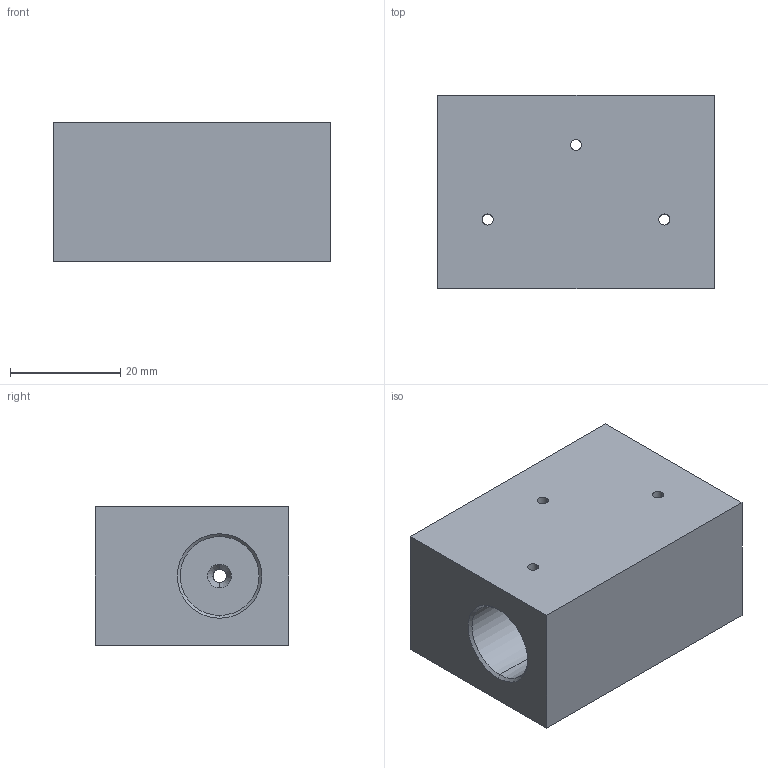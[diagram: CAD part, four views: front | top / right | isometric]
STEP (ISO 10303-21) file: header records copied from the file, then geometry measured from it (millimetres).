
FILE_DESCRIPTION (( 'STEP AP203' ), '1' );
FILE_NAME ('FT60TS04.STEP', '2026-06-26T01:33:34', ( 'USER' ), ( '' ), 'SwSTEP 2.0', 'SolidWorks 2023', '' );
FILE_SCHEMA (( 'CONFIG_CONTROL_DESIGN' ));
Length unit declared in the file: millimetre
Products named in the file (1): FT60TS04
Bounding box: 50 x 35 x 25 mm (x, y, z)
Volume: 38142.5 mm3; surface area: 9624 mm2
Topology: 1 solids, 1 shells, 44 faces, 114 edges, 68 vertices
Faces by surface type: cylinder 23, cone 12, plane 9
Entity records: 1613 total; most frequent: CARTESIAN_POINT 441, ORIENTED_EDGE 228, DIRECTION 228, EDGE_CURVE 114, AXIS2_PLACEMENT_3D 87, VERTEX_POINT 68, EDGE_LOOP 56, LINE 54
